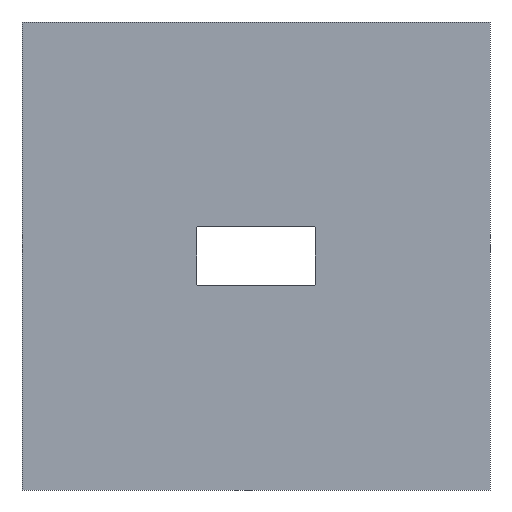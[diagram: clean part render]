
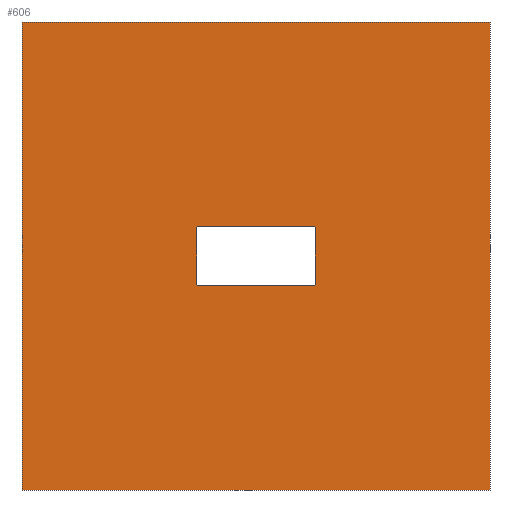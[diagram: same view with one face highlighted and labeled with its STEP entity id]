
A CAD part, left-side view. The second image highlights one B-rep face of the part: STEP entity #606.
In plain terms, the highlighted planar face has unit normal (-1, 0, 0).
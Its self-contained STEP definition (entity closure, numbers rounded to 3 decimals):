
#28=FACE_BOUND('',#124,.T.);
#46=PLANE('',#704);
#80=FACE_OUTER_BOUND('',#123,.T.);
#123=EDGE_LOOP('',(#549,#550,#551,#552));
#124=EDGE_LOOP('',(#553,#554,#555,#556,#557,#558,#559,#560));
#129=LINE('',#918,#169);
#133=LINE('',#930,#173);
#137=LINE('',#942,#177);
#139=LINE('',#950,#179);
#155=LINE('',#1063,#195);
#159=LINE('',#1070,#199);
#162=LINE('',#1076,#202);
#164=LINE('',#1079,#204);
#169=VECTOR('',#719,10.);
#173=VECTOR('',#731,10.);
#177=VECTOR('',#743,10.);
#179=VECTOR('',#753,10.);
#195=VECTOR('',#883,10.);
#199=VECTOR('',#889,10.);
#202=VECTOR('',#894,10.);
#204=VECTOR('',#898,10.);
#206=CIRCLE('',#629,0.5);
#208=CIRCLE('',#633,0.5);
#210=CIRCLE('',#637,0.5);
#212=CIRCLE('',#641,0.5);
#251=VERTEX_POINT('',#908);
#252=VERTEX_POINT('',#910);
#254=VERTEX_POINT('',#916);
#256=VERTEX_POINT('',#922);
#258=VERTEX_POINT('',#928);
#260=VERTEX_POINT('',#934);
#262=VERTEX_POINT('',#940);
#264=VERTEX_POINT('',#946);
#303=VERTEX_POINT('',#1060);
#304=VERTEX_POINT('',#1062);
#306=VERTEX_POINT('',#1068);
#308=VERTEX_POINT('',#1074);
#311=EDGE_CURVE('',#251,#252,#206,.T.);
#315=EDGE_CURVE('',#251,#254,#129,.T.);
#318=EDGE_CURVE('',#256,#254,#208,.T.);
#321=EDGE_CURVE('',#256,#258,#133,.T.);
#324=EDGE_CURVE('',#260,#258,#210,.T.);
#327=EDGE_CURVE('',#260,#262,#137,.T.);
#330=EDGE_CURVE('',#264,#262,#212,.T.);
#331=EDGE_CURVE('',#264,#252,#139,.T.);
#383=EDGE_CURVE('',#304,#303,#155,.T.);
#387=EDGE_CURVE('',#303,#306,#159,.T.);
#390=EDGE_CURVE('',#306,#308,#162,.T.);
#392=EDGE_CURVE('',#308,#304,#164,.T.);
#549=ORIENTED_EDGE('',*,*,#392,.T.);
#550=ORIENTED_EDGE('',*,*,#383,.T.);
#551=ORIENTED_EDGE('',*,*,#387,.T.);
#552=ORIENTED_EDGE('',*,*,#390,.T.);
#553=ORIENTED_EDGE('',*,*,#321,.T.);
#554=ORIENTED_EDGE('',*,*,#324,.F.);
#555=ORIENTED_EDGE('',*,*,#327,.T.);
#556=ORIENTED_EDGE('',*,*,#330,.F.);
#557=ORIENTED_EDGE('',*,*,#331,.T.);
#558=ORIENTED_EDGE('',*,*,#311,.F.);
#559=ORIENTED_EDGE('',*,*,#315,.T.);
#560=ORIENTED_EDGE('',*,*,#318,.F.);
#606=ADVANCED_FACE('',(#80,#28),#46,.F.);
#629=AXIS2_PLACEMENT_3D('',#911,#712,#713);
#633=AXIS2_PLACEMENT_3D('',#924,#725,#726);
#637=AXIS2_PLACEMENT_3D('',#936,#737,#738);
#641=AXIS2_PLACEMENT_3D('',#948,#749,#750);
#704=AXIS2_PLACEMENT_3D('',#1081,#901,#902);
#712=DIRECTION('center_axis',(-1.,0.,0.));
#713=DIRECTION('ref_axis',(0.,-0.707,0.707));
#719=DIRECTION('',(0.,0.,-1.));
#725=DIRECTION('center_axis',(-1.,0.,0.));
#726=DIRECTION('ref_axis',(0.,-0.707,-0.707));
#731=DIRECTION('',(0.,1.,0.));
#737=DIRECTION('center_axis',(-1.,0.,0.));
#738=DIRECTION('ref_axis',(0.,0.707,-0.707));
#743=DIRECTION('',(0.,0.,1.));
#749=DIRECTION('center_axis',(-1.,0.,0.));
#750=DIRECTION('ref_axis',(0.,0.707,0.707));
#753=DIRECTION('',(0.,-1.,0.));
#883=DIRECTION('',(0.,0.,-1.));
#889=DIRECTION('',(0.,-1.,0.));
#894=DIRECTION('',(0.,0.,1.));
#898=DIRECTION('',(0.,1.,0.));
#901=DIRECTION('center_axis',(1.,0.,0.));
#902=DIRECTION('ref_axis',(0.,0.,-1.));
#908=CARTESIAN_POINT('',(0.,-19.,9.));
#910=CARTESIAN_POINT('',(0.,-18.5,9.5));
#911=CARTESIAN_POINT('Origin',(0.,-18.5,9.));
#916=CARTESIAN_POINT('',(0.,-19.,-9.));
#918=CARTESIAN_POINT('',(0.,-19.,-4.75));
#922=CARTESIAN_POINT('',(0.,-18.5,-9.5));
#924=CARTESIAN_POINT('Origin',(0.,-18.5,-9.));
#928=CARTESIAN_POINT('',(0.,18.5,-9.5));
#930=CARTESIAN_POINT('',(0.,9.5,-9.5));
#934=CARTESIAN_POINT('',(0.,19.,-9.));
#936=CARTESIAN_POINT('Origin',(0.,18.5,-9.));
#940=CARTESIAN_POINT('',(0.,19.,9.));
#942=CARTESIAN_POINT('',(0.,19.,4.75));
#946=CARTESIAN_POINT('',(0.,18.5,9.5));
#948=CARTESIAN_POINT('Origin',(0.,18.5,9.));
#950=CARTESIAN_POINT('',(0.,-9.5,9.5));
#1060=CARTESIAN_POINT('',(0.,75.,-75.));
#1062=CARTESIAN_POINT('',(0.,75.,75.));
#1063=CARTESIAN_POINT('',(0.,75.,75.));
#1068=CARTESIAN_POINT('',(0.,-75.,-75.));
#1070=CARTESIAN_POINT('',(0.,75.,-75.));
#1074=CARTESIAN_POINT('',(0.,-75.,75.));
#1076=CARTESIAN_POINT('',(0.,-75.,-75.));
#1079=CARTESIAN_POINT('',(0.,-75.,75.));
#1081=CARTESIAN_POINT('Origin',(0.,0.,0.));
